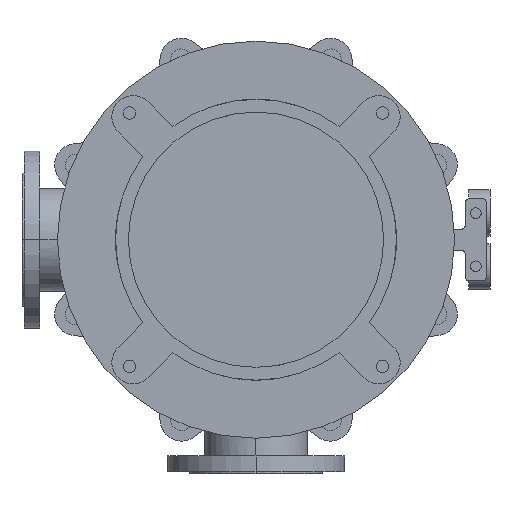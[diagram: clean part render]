
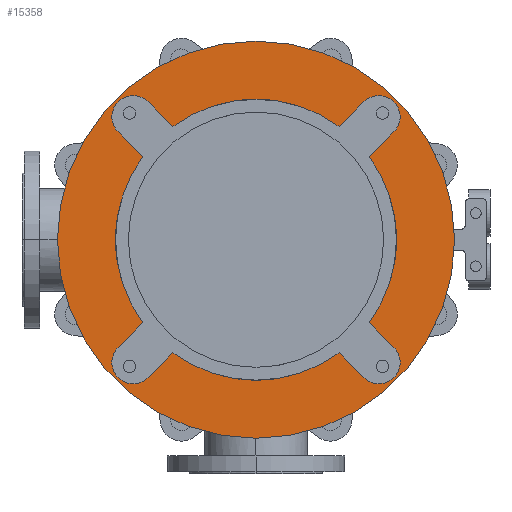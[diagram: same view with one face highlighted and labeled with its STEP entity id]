
A CAD part, front view. The second image highlights one B-rep face of the part: STEP entity #15358.
In plain terms, the highlighted planar face has unit normal (0, -1, 0).
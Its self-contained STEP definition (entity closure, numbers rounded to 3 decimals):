
#4283=CARTESIAN_POINT('',(0.,-25.,0.));
#4284=DIRECTION('',(0.,1.,0.));
#4285=DIRECTION('',(0.592,0.,-0.806));
#4286=AXIS2_PLACEMENT_3D('',#4283,#4284,#4285);
#4301=CARTESIAN_POINT('',(0.,-25.,0.));
#4302=DIRECTION('',(0.,1.,0.));
#4303=DIRECTION('',(0.806,0.,0.592));
#4304=AXIS2_PLACEMENT_3D('',#4301,#4302,#4303);
#4328=CARTESIAN_POINT('',(0.,-25.,0.));
#4329=DIRECTION('',(0.,1.,0.));
#4330=DIRECTION('',(-0.806,0.,-0.592));
#4331=AXIS2_PLACEMENT_3D('',#4328,#4329,#4330);
#4337=CARTESIAN_POINT('',(0.,-25.,0.));
#4338=DIRECTION('',(0.,1.,0.));
#4339=DIRECTION('',(-0.592,0.,0.806));
#4340=AXIS2_PLACEMENT_3D('',#4337,#4338,#4339);
#4515=CARTESIAN_POINT('',(0.,-25.,0.));
#4516=DIRECTION('',(0.,-1.,0.));
#4517=DIRECTION('',(-1.,0.,0.));
#4518=AXIS2_PLACEMENT_3D('',#4515,#4516,#4517);
#4520=CARTESIAN_POINT('',(0.,-25.,0.));
#4521=DIRECTION('',(0.,1.,0.));
#4522=DIRECTION('',(-1.,0.,0.));
#4523=AXIS2_PLACEMENT_3D('',#4520,#4521,#4522);
#4525=CARTESIAN_POINT('',(-173.241,-25.,173.241));
#4526=DIRECTION('',(0.,-1.,0.));
#4527=DIRECTION('',(0.707,0.,0.707));
#4528=AXIS2_PLACEMENT_3D('',#4525,#4526,#4527);
#4530=DIRECTION('',(0.707,0.,-0.707));
#4531=VECTOR('',#4530,49.286);
#4532=CARTESIAN_POINT('',(-194.454,-25.,152.028));
#4533=LINE('',#4532,#4531);
#4534=DIRECTION('',(-0.707,0.,-0.707));
#4535=VECTOR('',#4534,49.286);
#4536=CARTESIAN_POINT('',(-159.604,-25.,-117.178));
#4537=LINE('',#4536,#4535);
#4538=CARTESIAN_POINT('',(-173.241,-25.,-173.241));
#4539=DIRECTION('',(0.,-1.,0.));
#4540=DIRECTION('',(-0.707,0.,0.707));
#4541=AXIS2_PLACEMENT_3D('',#4538,#4539,#4540);
#4543=DIRECTION('',(0.707,0.,0.707));
#4544=VECTOR('',#4543,49.286);
#4545=CARTESIAN_POINT('',(-152.028,-25.,-194.454));
#4546=LINE('',#4545,#4544);
#4547=DIRECTION('',(0.707,0.,-0.707));
#4548=VECTOR('',#4547,49.286);
#4549=CARTESIAN_POINT('',(117.178,-25.,-159.604));
#4550=LINE('',#4549,#4548);
#4551=CARTESIAN_POINT('',(173.241,-25.,-173.241));
#4552=DIRECTION('',(0.,-1.,0.));
#4553=DIRECTION('',(-0.707,0.,-0.707));
#4554=AXIS2_PLACEMENT_3D('',#4551,#4552,#4553);
#4556=DIRECTION('',(-0.707,0.,0.707));
#4557=VECTOR('',#4556,49.286);
#4558=CARTESIAN_POINT('',(194.454,-25.,-152.028));
#4559=LINE('',#4558,#4557);
#4560=DIRECTION('',(0.707,0.,0.707));
#4561=VECTOR('',#4560,49.286);
#4562=CARTESIAN_POINT('',(159.604,-25.,117.178));
#4563=LINE('',#4562,#4561);
#4564=CARTESIAN_POINT('',(173.241,-25.,173.241));
#4565=DIRECTION('',(0.,-1.,0.));
#4566=DIRECTION('',(0.707,0.,-0.707));
#4567=AXIS2_PLACEMENT_3D('',#4564,#4565,#4566);
#4569=DIRECTION('',(-0.707,0.,-0.707));
#4570=VECTOR('',#4569,49.286);
#4571=CARTESIAN_POINT('',(152.028,-25.,194.454));
#4572=LINE('',#4571,#4570);
#4573=DIRECTION('',(-0.707,0.,0.707));
#4574=VECTOR('',#4573,49.286);
#4575=CARTESIAN_POINT('',(-117.178,-25.,159.604));
#4576=LINE('',#4575,#4574);
#8380=CARTESIAN_POINT('',(-280.,-25.,0.));
#8381=CARTESIAN_POINT('',(280.,-25.,0.));
#8382=VERTEX_POINT('',#8380);
#8383=VERTEX_POINT('',#8381);
#8404=CARTESIAN_POINT('',(-194.454,-25.,-152.028));
#8405=CARTESIAN_POINT('',(-152.028,-25.,-194.454));
#8406=VERTEX_POINT('',#8404);
#8407=VERTEX_POINT('',#8405);
#8408=CARTESIAN_POINT('',(-117.178,-25.,-159.604));
#8409=VERTEX_POINT('',#8408);
#8410=CARTESIAN_POINT('',(-159.604,-25.,-117.178));
#8411=VERTEX_POINT('',#8410);
#8420=CARTESIAN_POINT('',(152.028,-25.,-194.454));
#8421=CARTESIAN_POINT('',(194.454,-25.,-152.028));
#8422=VERTEX_POINT('',#8420);
#8423=VERTEX_POINT('',#8421);
#8424=CARTESIAN_POINT('',(159.604,-25.,-117.178));
#8425=VERTEX_POINT('',#8424);
#8426=CARTESIAN_POINT('',(117.178,-25.,-159.604));
#8427=VERTEX_POINT('',#8426);
#8436=CARTESIAN_POINT('',(194.454,-25.,152.028));
#8437=CARTESIAN_POINT('',(152.028,-25.,194.454));
#8438=VERTEX_POINT('',#8436);
#8439=VERTEX_POINT('',#8437);
#8440=CARTESIAN_POINT('',(117.178,-25.,159.604));
#8441=VERTEX_POINT('',#8440);
#8442=CARTESIAN_POINT('',(159.604,-25.,117.178));
#8443=VERTEX_POINT('',#8442);
#8452=CARTESIAN_POINT('',(-152.028,-25.,194.454));
#8453=CARTESIAN_POINT('',(-194.454,-25.,152.028));
#8454=VERTEX_POINT('',#8452);
#8455=VERTEX_POINT('',#8453);
#8456=CARTESIAN_POINT('',(-159.604,-25.,117.178));
#8457=VERTEX_POINT('',#8456);
#8458=CARTESIAN_POINT('',(-117.178,-25.,159.604));
#8459=VERTEX_POINT('',#8458);
#15318=CARTESIAN_POINT('',(0.,-25.,0.));
#15319=DIRECTION('',(0.,-1.,0.));
#15320=DIRECTION('',(-1.,0.,0.));
#15321=AXIS2_PLACEMENT_3D('',#15318,#15319,#15320);
#15322=PLANE('',#15321);
#15324=ORIENTED_EDGE('',*,*,#15323,.F.);
#15326=ORIENTED_EDGE('',*,*,#15325,.T.);
#15327=EDGE_LOOP('',(#15324,#15326));
#15328=FACE_OUTER_BOUND('',#15327,.F.);
#15330=ORIENTED_EDGE('',*,*,#15329,.T.);
#15332=ORIENTED_EDGE('',*,*,#15331,.T.);
#15333=ORIENTED_EDGE('',*,*,#15271,.F.);
#15335=ORIENTED_EDGE('',*,*,#15334,.T.);
#15337=ORIENTED_EDGE('',*,*,#15336,.T.);
#15339=ORIENTED_EDGE('',*,*,#15338,.T.);
#15340=ORIENTED_EDGE('',*,*,#15224,.F.);
#15341=ORIENTED_EDGE('',*,*,#15308,.T.);
#15343=ORIENTED_EDGE('',*,*,#15342,.T.);
#15345=ORIENTED_EDGE('',*,*,#15344,.T.);
#15346=ORIENTED_EDGE('',*,*,#15245,.F.);
#15348=ORIENTED_EDGE('',*,*,#15347,.T.);
#15350=ORIENTED_EDGE('',*,*,#15349,.T.);
#15352=ORIENTED_EDGE('',*,*,#15351,.T.);
#15353=ORIENTED_EDGE('',*,*,#15289,.F.);
#15355=ORIENTED_EDGE('',*,*,#15354,.T.);
#15356=EDGE_LOOP('',(#15330,#15332,#15333,#15335,#15337,#15339,#15340,#15341,
#15343,#15345,#15346,#15348,#15350,#15352,#15353,#15355));
#15357=FACE_BOUND('',#15356,.F.);
#15358=ADVANCED_FACE('',(#15328,#15357),#15322,.T.);
#4287=CIRCLE('',#4286,198.);
#4305=CIRCLE('',#4304,198.);
#4332=CIRCLE('',#4331,198.);
#4341=CIRCLE('',#4340,198.);
#4519=CIRCLE('',#4518,280.);
#4524=CIRCLE('',#4523,280.);
#4529=CIRCLE('',#4528,30.);
#4542=CIRCLE('',#4541,30.);
#4555=CIRCLE('',#4554,30.);
#4568=CIRCLE('',#4567,30.);
#15224=EDGE_CURVE('',#8427,#8409,#4287,.T.);
#15245=EDGE_CURVE('',#8443,#8425,#4305,.T.);
#15271=EDGE_CURVE('',#8411,#8457,#4332,.T.);
#15289=EDGE_CURVE('',#8459,#8441,#4341,.T.);
#15308=EDGE_CURVE('',#8427,#8422,#4550,.T.);
#15323=EDGE_CURVE('',#8382,#8383,#4519,.T.);
#15325=EDGE_CURVE('',#8382,#8383,#4524,.T.);
#15329=EDGE_CURVE('',#8454,#8455,#4529,.T.);
#15331=EDGE_CURVE('',#8455,#8457,#4533,.T.);
#15334=EDGE_CURVE('',#8411,#8406,#4537,.T.);
#15336=EDGE_CURVE('',#8406,#8407,#4542,.T.);
#15338=EDGE_CURVE('',#8407,#8409,#4546,.T.);
#15342=EDGE_CURVE('',#8422,#8423,#4555,.T.);
#15344=EDGE_CURVE('',#8423,#8425,#4559,.T.);
#15347=EDGE_CURVE('',#8443,#8438,#4563,.T.);
#15349=EDGE_CURVE('',#8438,#8439,#4568,.T.);
#15351=EDGE_CURVE('',#8439,#8441,#4572,.T.);
#15354=EDGE_CURVE('',#8459,#8454,#4576,.T.);
